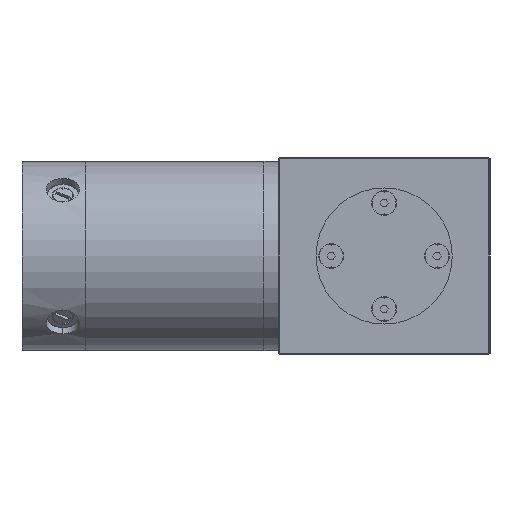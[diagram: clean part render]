
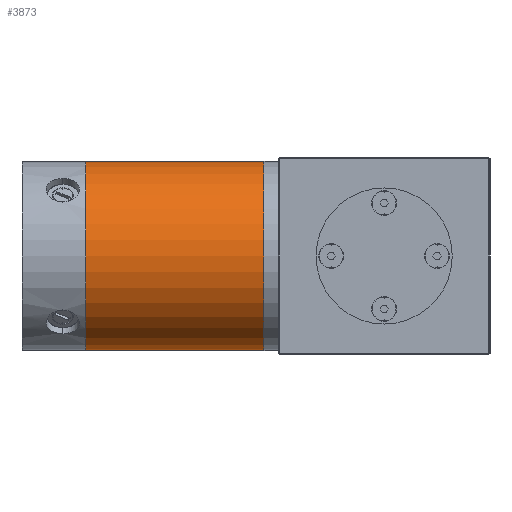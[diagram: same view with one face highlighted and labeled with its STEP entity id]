
A CAD part, left-side view. The second image highlights one B-rep face of the part: STEP entity #3873.
In plain terms, the highlighted cylindrical face has radius 39.685 mm (diameter 79.37 mm), a partial arc.
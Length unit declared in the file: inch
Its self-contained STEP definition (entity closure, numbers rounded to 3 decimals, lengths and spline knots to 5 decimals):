
#1472 = DIRECTION ( 'NONE',  ( 0., 1., 0. ) ) ;
#1819 = ORIENTED_EDGE ( 'NONE', *, *, #26835, .T. ) ;
#2581 = CARTESIAN_POINT ( 'NONE',  ( 9.26851, 19692.77598, 0.0626 ) ) ;
#3515 = VERTEX_POINT ( 'NONE', #42353 ) ;
#3873 = ADVANCED_FACE ( 'NONE', ( #43147 ), #32175, .T. ) ;
#4771 = EDGE_CURVE ( 'NONE', #18684, #9198, #38511, .T. ) ;
#6780 = EDGE_CURVE ( 'NONE', #9198, #42358, #28712, .T. ) ;
#8878 = CIRCLE ( 'NONE', #21159, 1.5624 ) ;
#9198 = VERTEX_POINT ( 'NONE', #26970 ) ;
#12655 = DIRECTION ( 'NONE',  ( 0., -1., 0. ) ) ;
#14726 = DIRECTION ( 'NONE',  ( 0., 0., 1. ) ) ;
#15232 = VECTOR ( 'NONE', #23501, 39.37008 ) ;
#15840 = EDGE_LOOP ( 'NONE', ( #1819, #45052, #23030, #16142 ) ) ;
#16142 = ORIENTED_EDGE ( 'NONE', *, *, #44486, .F. ) ;
#16285 = VECTOR ( 'NONE', #12655, 39.37008 ) ;
#18684 = VERTEX_POINT ( 'NONE', #39547 ) ;
#21159 = AXIS2_PLACEMENT_3D ( 'NONE', #35383, #48167, #14726 ) ;
#21439 = CARTESIAN_POINT ( 'NONE',  ( 9.26851, 19692.77598, 1.625 ) ) ;
#23030 = ORIENTED_EDGE ( 'NONE', *, *, #6780, .T. ) ;
#23501 = DIRECTION ( 'NONE',  ( 0., -1., 0. ) ) ;
#26835 = EDGE_CURVE ( 'NONE', #3515, #18684, #8878, .T. ) ;
#26970 = CARTESIAN_POINT ( 'NONE',  ( 9.26851, 3.73622, 0.0626 ) ) ;
#28712 = CIRCLE ( 'NONE', #51912, 1.5624 ) ;
#30557 = DIRECTION ( 'NONE',  ( 0., 0., -1. ) ) ;
#32175 = CYLINDRICAL_SURFACE ( 'NONE', #47861, 1.5624 ) ;
#33949 = DIRECTION ( 'NONE',  ( 0., -1., 0. ) ) ;
#35383 = CARTESIAN_POINT ( 'NONE',  ( 9.26851, 6.68661, 1.625 ) ) ;
#38511 = LINE ( 'NONE', #2581, #15232 ) ;
#39547 = CARTESIAN_POINT ( 'NONE',  ( 9.26851, 6.68661, 0.0626 ) ) ;
#41484 = CARTESIAN_POINT ( 'NONE',  ( 9.26851, 3.73622, 3.1874 ) ) ;
#42353 = CARTESIAN_POINT ( 'NONE',  ( 9.26851, 6.68661, 3.1874 ) ) ;
#42358 = VERTEX_POINT ( 'NONE', #41484 ) ;
#42823 = CARTESIAN_POINT ( 'NONE',  ( 9.26851, 3.73622, 1.625 ) ) ;
#43147 = FACE_OUTER_BOUND ( 'NONE', #15840, .T. ) ;
#44486 = EDGE_CURVE ( 'NONE', #3515, #42358, #52568, .T. ) ;
#45052 = ORIENTED_EDGE ( 'NONE', *, *, #4771, .T. ) ;
#46160 = CARTESIAN_POINT ( 'NONE',  ( 9.26851, 19692.77598, 3.1874 ) ) ;
#47861 = AXIS2_PLACEMENT_3D ( 'NONE', #21439, #33949, #50713 ) ;
#48167 = DIRECTION ( 'NONE',  ( 0., -1., 0. ) ) ;
#50713 = DIRECTION ( 'NONE',  ( 0., 0., 1. ) ) ;
#51912 = AXIS2_PLACEMENT_3D ( 'NONE', #42823, #1472, #30557 ) ;
#52568 = LINE ( 'NONE', #46160, #16285 ) ;
